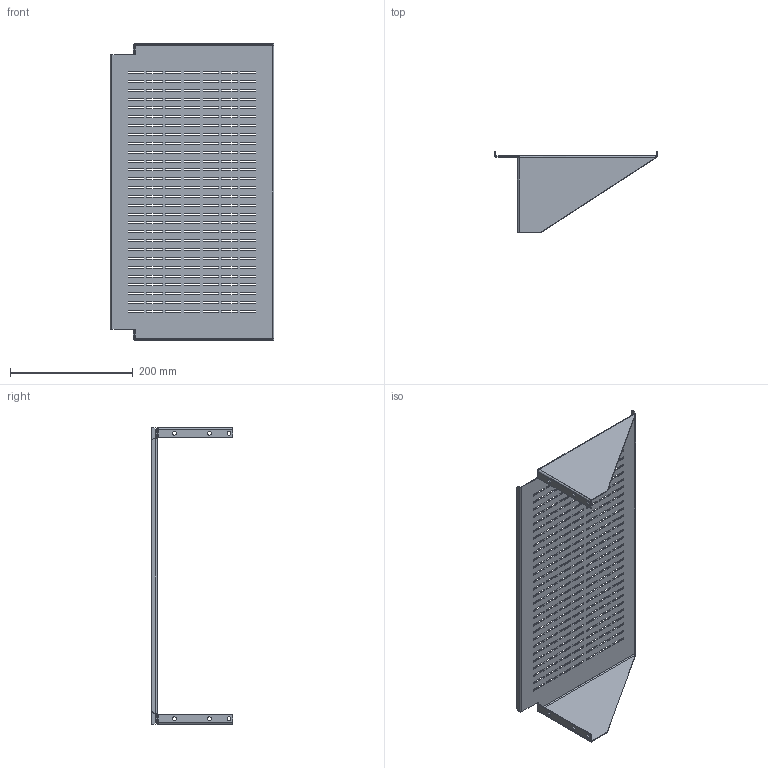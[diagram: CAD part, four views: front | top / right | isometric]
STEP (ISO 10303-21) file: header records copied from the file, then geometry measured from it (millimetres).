
FILE_DESCRIPTION((''),'2;1');
FILE_NAME('D:\scratch\ideas\11458695.stp','2006-12-06T06:35:08',( 'User'),('SDRC'),'I-DEAS Master Series 9','UNIX','Yes');
FILE_SCHEMA(('AUTOMOTIVE_DESIGN { 1 0 10303 214 0 1 1 1 }'));
Length unit declared in the file: inch
Products named in the file (1): double_shelf_19in_vented_flat
Bounding box: 266.45 x 132.59 x 482.6 mm (x, y, z)
Volume: 214268.7 mm3; surface area: 324954.5 mm2
Topology: 1 solids, 1 shells, 882 faces, 2592 edges, 1712 vertices
Faces by surface type: bspline 882
Entity records: 26983 total; most frequent: CARTESIAN_POINT 10597, ORIENTED_EDGE 5184, EDGE_CURVE 2592, QUASI_UNIFORM_CURVE 2526, VERTEX_POINT 1712, EDGE_LOOP 1286, FACE_OUTER_BOUND 882, ADVANCED_FACE 882
